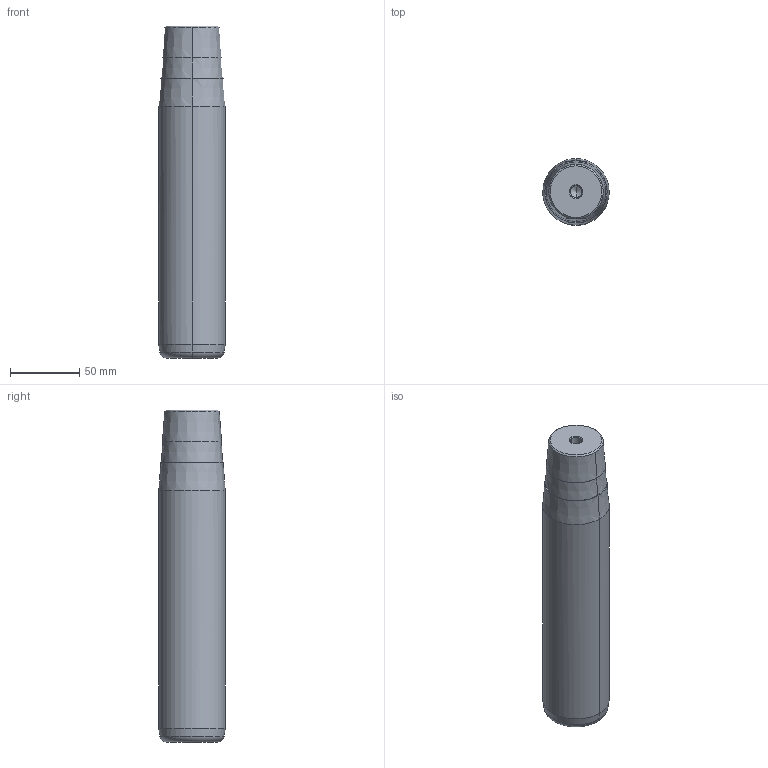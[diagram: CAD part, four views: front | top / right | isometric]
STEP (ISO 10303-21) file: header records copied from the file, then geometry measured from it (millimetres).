
FILE_DESCRIPTION(('CATIA V5 STEP Exchange'),'2;1');
FILE_NAME('C:\Users\Utente\Desktop\IO LAVORO\3D X SITO CF\X SITO\722\722-48x200x240.stp','2021-01-08T15:03:16+00:00',('none'),('none'),'CATIA Version 5 Release 20 GA (IN-10)','CATIA V5 STEP AP203','none');
FILE_SCHEMA(('CONFIG_CONTROL_DESIGN'));
Length unit declared in the file: millimetre
Products named in the file (1): 722-48x200x240
Bounding box: 48 x 48 x 240 mm (x, y, z)
Volume: 411465.9 mm3; surface area: 39325.9 mm2
Topology: 1 solids, 1 shells, 32 faces, 98 edges, 66 vertices
Faces by surface type: cone 22, cylinder 6, plane 2, torus 2
Entity records: 1166 total; most frequent: CARTESIAN_POINT 279, ORIENTED_EDGE 188, DIRECTION 148, EDGE_CURVE 94, AXIS2_PLACEMENT_3D 89, VERTEX_POINT 66, CIRCLE 56, EDGE_LOOP 34
